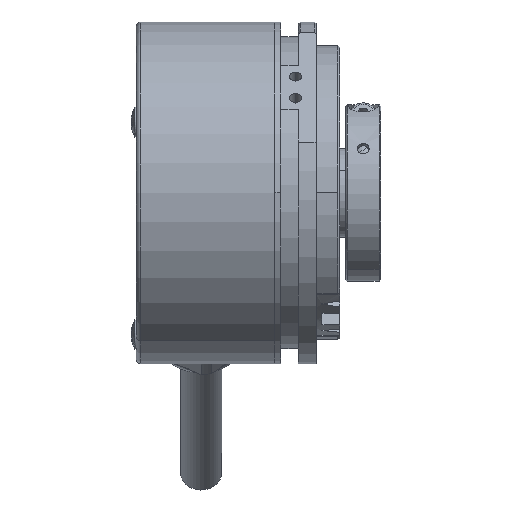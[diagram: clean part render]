
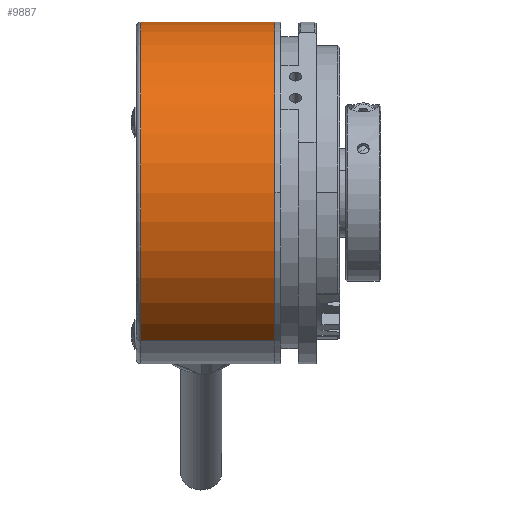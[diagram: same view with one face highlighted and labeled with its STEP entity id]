
A CAD part, top view. The second image highlights one B-rep face of the part: STEP entity #9887.
In plain terms, the highlighted cylindrical face has radius 29 mm (diameter 58 mm), a partial arc.
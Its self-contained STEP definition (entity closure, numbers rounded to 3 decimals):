
#45 = VERTEX_POINT ( 'NONE', #7703 ) ;
#335 = AXIS2_PLACEMENT_3D ( 'NONE', #5827, #6889, #742 ) ;
#607 = ORIENTED_EDGE ( 'NONE', *, *, #5599, .F. ) ;
#742 = DIRECTION ( 'NONE',  ( 0., -0.866, 0.5 ) ) ;
#2006 = FACE_OUTER_BOUND ( 'NONE', #12093, .T. ) ;
#2138 = DIRECTION ( 'NONE',  ( -1., 0., 0. ) ) ;
#2534 = VECTOR ( 'NONE', #7238, 1000. ) ;
#2868 = VERTEX_POINT ( 'NONE', #5057 ) ;
#2928 = EDGE_CURVE ( 'NONE', #5284, #2868, #9263, .T. ) ;
#3160 = DIRECTION ( 'NONE',  ( 1., 0., 0. ) ) ;
#3558 = VERTEX_POINT ( 'NONE', #6936 ) ;
#3752 = EDGE_CURVE ( 'NONE', #45, #5284, #4431, .T. ) ;
#3866 = LINE ( 'NONE', #4100, #2534 ) ;
#4070 = CIRCLE ( 'NONE', #9795, 29. ) ;
#4100 = CARTESIAN_POINT ( 'NONE',  ( -34.5, -25.115, 14.5 ) ) ;
#4431 = LINE ( 'NONE', #5324, #12959 ) ;
#5057 = CARTESIAN_POINT ( 'NONE',  ( -33.7, -25.115, 14.5 ) ) ;
#5284 = VERTEX_POINT ( 'NONE', #5857 ) ;
#5324 = CARTESIAN_POINT ( 'NONE',  ( -34.5, 25.115, -14.5 ) ) ;
#5599 = EDGE_CURVE ( 'NONE', #3558, #2868, #3866, .T. ) ;
#5827 = CARTESIAN_POINT ( 'NONE',  ( -34.5, 0., 0. ) ) ;
#5857 = CARTESIAN_POINT ( 'NONE',  ( -33.7, 25.115, -14.5 ) ) ;
#6239 = CYLINDRICAL_SURFACE ( 'NONE', #335, 29. ) ;
#6346 = ORIENTED_EDGE ( 'NONE', *, *, #3752, .T. ) ;
#6889 = DIRECTION ( 'NONE',  ( -1., 0., 0. ) ) ;
#6936 = CARTESIAN_POINT ( 'NONE',  ( -11., -25.115, 14.5 ) ) ;
#7238 = DIRECTION ( 'NONE',  ( -1., 0., 0. ) ) ;
#7703 = CARTESIAN_POINT ( 'NONE',  ( -11., 25.115, -14.5 ) ) ;
#8340 = AXIS2_PLACEMENT_3D ( 'NONE', #9358, #3160, #10397 ) ;
#8350 = CARTESIAN_POINT ( 'NONE',  ( -11., 0., 0. ) ) ;
#8902 = ORIENTED_EDGE ( 'NONE', *, *, #11152, .T. ) ;
#9263 = CIRCLE ( 'NONE', #8340, 29. ) ;
#9358 = CARTESIAN_POINT ( 'NONE',  ( -33.7, 0., 0. ) ) ;
#9385 = DIRECTION ( 'NONE',  ( 0., -0.866, 0.5 ) ) ;
#9795 = AXIS2_PLACEMENT_3D ( 'NONE', #8350, #2138, #9385 ) ;
#9887 = ADVANCED_FACE ( 'NONE', ( #2006 ), #6239, .T. ) ;
#10397 = DIRECTION ( 'NONE',  ( 0., 0.866, -0.5 ) ) ;
#11152 = EDGE_CURVE ( 'NONE', #3558, #45, #4070, .T. ) ;
#11515 = DIRECTION ( 'NONE',  ( -1., 0., 0. ) ) ;
#12093 = EDGE_LOOP ( 'NONE', ( #8902, #6346, #13064, #607 ) ) ;
#12959 = VECTOR ( 'NONE', #11515, 1000. ) ;
#13064 = ORIENTED_EDGE ( 'NONE', *, *, #2928, .T. ) ;
